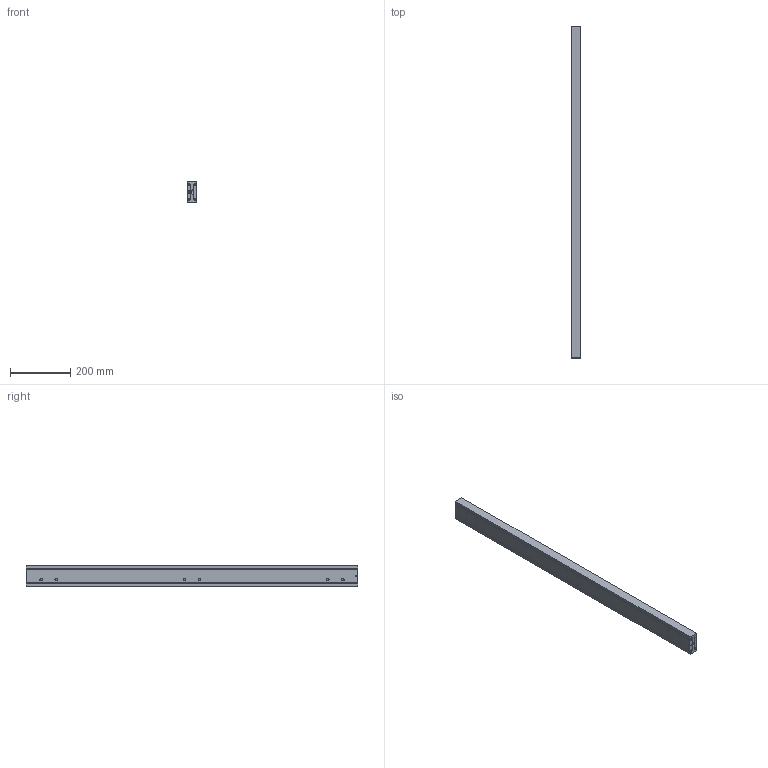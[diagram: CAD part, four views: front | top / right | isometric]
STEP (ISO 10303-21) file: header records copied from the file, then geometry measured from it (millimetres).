
FILE_DESCRIPTION(/* description */ (''),/* implementation_level */ '2;1');
FILE_NAME(/* name */ 'D:\Zeichnungen Schienen Komplett\MX-DTP70\MX-DTP70.110\MX-DTP70.110_eingefahren.step',/* time_stamp */ '2022-03-03T14:17:08+01:00',/* author */ ('zmile'),/* organization */ (''),/* preprocessor_version */ 'ST-DEVELOPER v16.13',/* originating_system */ 'AutoCAD Mechanical',/* authorisation */ '');
FILE_SCHEMA (('AUTOMOTIVE_DESIGN { 1 0 10303 214 3 1 1 }'));
Length unit declared in the file: millimetre
Products named in the file (1): Product
Bounding box: 32 x 1100 x 70 mm (x, y, z)
Volume: 1875712.1 mm3; surface area: 659803.8 mm2
Topology: 61 solids, 63 shells, 202 faces, 632 edges, 456 vertices
Faces by surface type: plane 94, sphere 56, cylinder 38, bspline 8, torus 6
Full cylindrical faces by diameter (mm): 8 x24, 13 x2
Entity records: 13681 total; most frequent: CARTESIAN_POINT 8253, DIRECTION 1114, ORIENTED_EDGE 828, EDGE_CURVE 486, VERTEX_POINT 454, AXIS2_PLACEMENT_3D 451, EDGE_LOOP 386, CIRCLE 252
